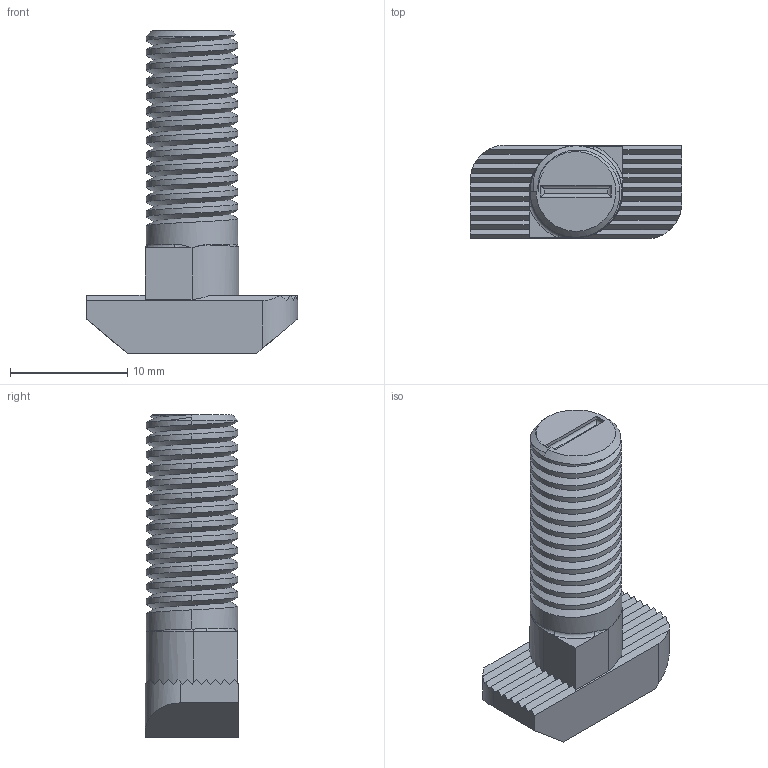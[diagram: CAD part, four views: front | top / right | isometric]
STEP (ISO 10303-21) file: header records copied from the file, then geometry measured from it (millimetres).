
FILE_DESCRIPTION (( 'STEP AP214' ), '1' );
FILE_NAME ('5167 Ò-áîëò Ì8õ23 ñåðèÿ 30 ïàç 8.STEP', '2017-08-09T07:56:52', ( '' ), ( '' ), 'SwSTEP 2.0', 'SolidWorks 2014', '' );
FILE_SCHEMA (( 'AUTOMOTIVE_DESIGN' ));
Length unit declared in the file: millimetre
Products named in the file (2): 5167 Ò-áîëò Ì8õ23 ñåðèÿ 30 ïàç 8
Bounding box: 18 x 8 x 27.5 mm (x, y, z)
Volume: 1625.3 mm3; surface area: 1285.9 mm2
Topology: 1 solids, 1 shells, 109 faces, 305 edges, 196 vertices
Faces by surface type: plane 59, cylinder 36, bspline 8, cone 3, torus 3
Entity records: 5328 total; most frequent: CARTESIAN_POINT 2852, ORIENTED_EDGE 600, DIRECTION 408, EDGE_CURVE 300, VERTEX_POINT 194, VECTOR 168, LINE 168, AXIS2_PLACEMENT_3D 120
